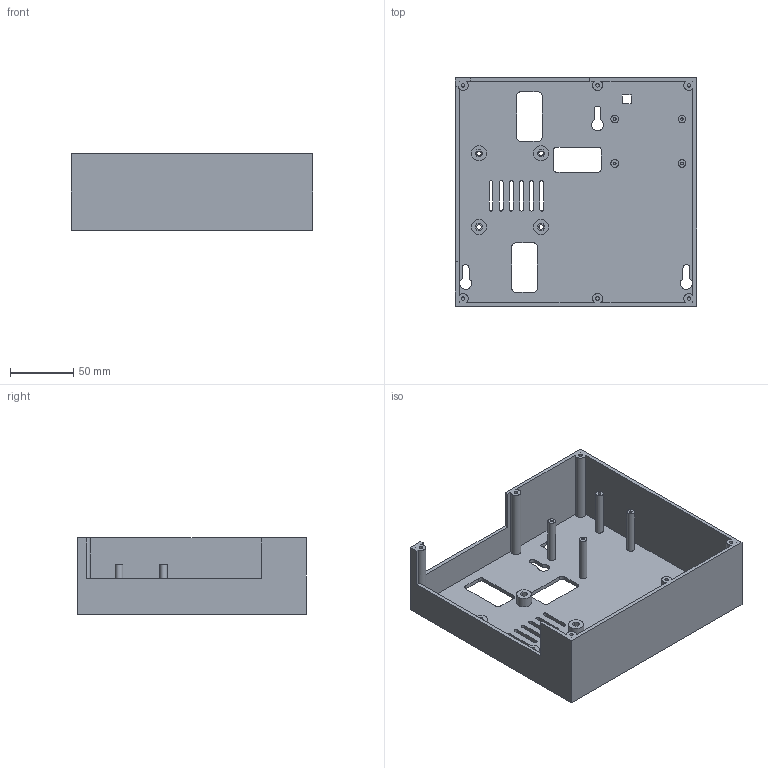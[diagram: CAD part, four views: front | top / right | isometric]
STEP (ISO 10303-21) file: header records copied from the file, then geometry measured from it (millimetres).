
FILE_DESCRIPTION(('Open CASCADE Model'),'2;1');
FILE_NAME('Open CASCADE Shape Model','2026-11-12T17:04:52',('Author'),( 'Open CASCADE'),'Open CASCADE STEP processor 7.8','Open CASCADE 7.8' ,'Unknown');
FILE_SCHEMA(('AUTOMOTIVE_DESIGN { 1 0 10303 214 1 1 1 1 }'));
Length unit declared in the file: millimetre
Products named in the file (1): Open CASCADE STEP translator 7.8 1
Bounding box: 190 x 180 x 60 mm (x, y, z)
Volume: 216846.3 mm3; surface area: 143095 mm2
Topology: 1 solids, 1 shells, 174 faces, 438 edges, 292 vertices
Faces by surface type: plane 112, cylinder 62
Full cylindrical faces by diameter (mm): 2.1 x4, 2.7 x6, 3.5 x4, 6 x4, 12 x4
Entity records: 10890 total; most frequent: CARTESIAN_POINT 2403, DIRECTION 1452, ORIENTED_EDGE 876, PCURVE 876, DEFINITIONAL_REPRESENTATION 876, LINE 784, VECTOR 784, EDGE_CURVE 438
